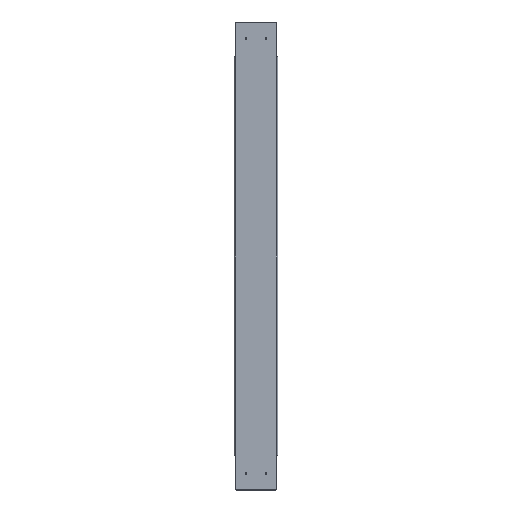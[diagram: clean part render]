
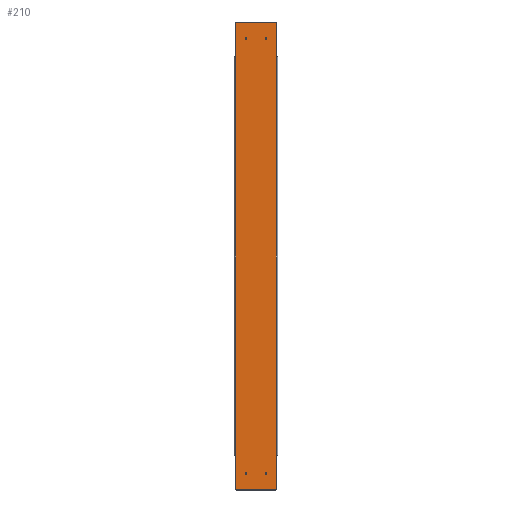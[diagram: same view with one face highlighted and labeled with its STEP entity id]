
A CAD part, top view. The second image highlights one B-rep face of the part: STEP entity #210.
In plain terms, the highlighted planar face has unit normal (0, 0, 1).
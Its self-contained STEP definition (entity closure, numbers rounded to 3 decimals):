
#59=CARTESIAN_POINT('',(1580.,2093.5,147.5));
#60=DIRECTION('',(-0.,-0.,1.));
#61=DIRECTION('',(0.,1.,0.));
#62=AXIS2_PLACEMENT_3D('',#59,#60,#61);
#63=PLANE('',#62);
#64=CARTESIAN_POINT('',(1590.,2130.9,147.5));
#65=VERTEX_POINT('',#64);
#66=CARTESIAN_POINT('',(1590.,2133.5,147.5));
#67=DIRECTION('',(-0.,-0.,1.));
#68=DIRECTION('',(0.,-1.,-0.));
#69=AXIS2_PLACEMENT_3D('',#66,#67,#68);
#70=CIRCLE('',#69,2.6);
#71=EDGE_CURVE('',#65,#65,#70,.T.);
#72=ORIENTED_EDGE('',*,*,#71,.F.);
#73=EDGE_LOOP('',(#72));
#74=FACE_BOUND('',#73,.T.);
#75=CARTESIAN_POINT('',(1530.,2130.9,147.5));
#76=VERTEX_POINT('',#75);
#77=CARTESIAN_POINT('',(1530.,2133.5,147.5));
#78=DIRECTION('',(-0.,-0.,1.));
#79=DIRECTION('',(0.,-1.,-0.));
#80=AXIS2_PLACEMENT_3D('',#77,#78,#79);
#81=CIRCLE('',#80,2.6);
#82=EDGE_CURVE('',#76,#76,#81,.T.);
#83=ORIENTED_EDGE('',*,*,#82,.F.);
#84=EDGE_LOOP('',(#83));
#85=FACE_BOUND('',#84,.T.);
#86=CARTESIAN_POINT('',(1530.,3430.9,147.5));
#87=VERTEX_POINT('',#86);
#88=CARTESIAN_POINT('',(1530.,3433.5,147.5));
#89=DIRECTION('',(-0.,-0.,1.));
#90=DIRECTION('',(0.,-1.,-0.));
#91=AXIS2_PLACEMENT_3D('',#88,#89,#90);
#92=CIRCLE('',#91,2.6);
#93=EDGE_CURVE('',#87,#87,#92,.T.);
#94=ORIENTED_EDGE('',*,*,#93,.F.);
#95=EDGE_LOOP('',(#94));
#96=FACE_BOUND('',#95,.T.);
#97=CARTESIAN_POINT('',(1590.,3430.9,147.5));
#98=VERTEX_POINT('',#97);
#99=CARTESIAN_POINT('',(1590.,3433.5,147.5));
#100=DIRECTION('',(-0.,-0.,1.));
#101=DIRECTION('',(0.,-1.,-0.));
#102=AXIS2_PLACEMENT_3D('',#99,#100,#101);
#103=CIRCLE('',#102,2.6);
#104=EDGE_CURVE('',#98,#98,#103,.T.);
#105=ORIENTED_EDGE('',*,*,#104,.F.);
#106=EDGE_LOOP('',(#105));
#107=FACE_BOUND('',#106,.T.);
#108=CARTESIAN_POINT('',(1620.,2187.5,147.5));
#109=VERTEX_POINT('',#108);
#110=CARTESIAN_POINT('',(1620.,2084.5,147.5));
#111=VERTEX_POINT('',#110);
#112=CARTESIAN_POINT('',(1620.,2187.5,147.5));
#113=DIRECTION('',(0.,-1.,-0.));
#114=VECTOR('',#113,103.);
#115=LINE('',#112,#114);
#116=EDGE_CURVE('',#109,#111,#115,.T.);
#117=ORIENTED_EDGE('',*,*,#116,.F.);
#118=CARTESIAN_POINT('',(1620.,3379.5,147.5));
#119=VERTEX_POINT('',#118);
#120=CARTESIAN_POINT('',(1620.,2187.5,147.5));
#121=DIRECTION('',(0.,1.,0.));
#122=VECTOR('',#121,1192.);
#123=LINE('',#120,#122);
#124=EDGE_CURVE('',#109,#119,#123,.T.);
#125=ORIENTED_EDGE('',*,*,#124,.T.);
#126=CARTESIAN_POINT('',(1620.,3482.5,147.5));
#127=VERTEX_POINT('',#126);
#128=CARTESIAN_POINT('',(1620.,3379.5,147.5));
#129=DIRECTION('',(0.,1.,0.));
#130=VECTOR('',#129,103.);
#131=LINE('',#128,#130);
#132=EDGE_CURVE('',#119,#127,#131,.T.);
#133=ORIENTED_EDGE('',*,*,#132,.T.);
#134=CARTESIAN_POINT('',(1619.,3483.5,147.5));
#135=VERTEX_POINT('',#134);
#136=CARTESIAN_POINT('',(1619.,3482.5,147.5));
#137=DIRECTION('',(-0.,-0.,1.));
#138=DIRECTION('',(0.,-1.,-0.));
#139=AXIS2_PLACEMENT_3D('',#136,#137,#138);
#140=CIRCLE('',#139,1.);
#141=EDGE_CURVE('',#127,#135,#140,.T.);
#142=ORIENTED_EDGE('',*,*,#141,.T.);
#143=CARTESIAN_POINT('',(1501.,3483.5,147.5));
#144=VERTEX_POINT('',#143);
#145=CARTESIAN_POINT('',(1619.,3483.5,147.5));
#146=DIRECTION('',(-1.,0.,0.));
#147=VECTOR('',#146,118.);
#148=LINE('',#145,#147);
#149=EDGE_CURVE('',#135,#144,#148,.T.);
#150=ORIENTED_EDGE('',*,*,#149,.T.);
#151=CARTESIAN_POINT('',(1500.,3482.5,147.5));
#152=VERTEX_POINT('',#151);
#153=CARTESIAN_POINT('',(1501.,3482.5,147.5));
#154=DIRECTION('',(-0.,-0.,1.));
#155=DIRECTION('',(0.,-1.,-0.));
#156=AXIS2_PLACEMENT_3D('',#153,#154,#155);
#157=CIRCLE('',#156,1.);
#158=EDGE_CURVE('',#144,#152,#157,.T.);
#159=ORIENTED_EDGE('',*,*,#158,.T.);
#160=CARTESIAN_POINT('',(1500.,3379.5,147.5));
#161=VERTEX_POINT('',#160);
#162=CARTESIAN_POINT('',(1500.,3379.5,147.5));
#163=DIRECTION('',(0.,1.,0.));
#164=VECTOR('',#163,103.);
#165=LINE('',#162,#164);
#166=EDGE_CURVE('',#161,#152,#165,.T.);
#167=ORIENTED_EDGE('',*,*,#166,.F.);
#168=CARTESIAN_POINT('',(1500.,2187.5,147.5));
#169=VERTEX_POINT('',#168);
#170=CARTESIAN_POINT('',(1500.,3379.5,147.5));
#171=DIRECTION('',(-0.,-1.,-0.));
#172=VECTOR('',#171,1192.);
#173=LINE('',#170,#172);
#174=EDGE_CURVE('',#161,#169,#173,.T.);
#175=ORIENTED_EDGE('',*,*,#174,.T.);
#176=CARTESIAN_POINT('',(1500.,2084.5,147.5));
#177=VERTEX_POINT('',#176);
#178=CARTESIAN_POINT('',(1500.,2187.5,147.5));
#179=DIRECTION('',(0.,-1.,-0.));
#180=VECTOR('',#179,103.);
#181=LINE('',#178,#180);
#182=EDGE_CURVE('',#169,#177,#181,.T.);
#183=ORIENTED_EDGE('',*,*,#182,.T.);
#184=CARTESIAN_POINT('',(1501.,2083.5,147.5));
#185=VERTEX_POINT('',#184);
#186=CARTESIAN_POINT('',(1501.,2084.5,147.5));
#187=DIRECTION('',(-0.,-0.,1.));
#188=DIRECTION('',(0.,-1.,-0.));
#189=AXIS2_PLACEMENT_3D('',#186,#187,#188);
#190=CIRCLE('',#189,1.);
#191=EDGE_CURVE('',#177,#185,#190,.T.);
#192=ORIENTED_EDGE('',*,*,#191,.T.);
#193=CARTESIAN_POINT('',(1619.,2083.5,147.5));
#194=VERTEX_POINT('',#193);
#195=CARTESIAN_POINT('',(1619.,2083.5,147.5));
#196=DIRECTION('',(-1.,0.,0.));
#197=VECTOR('',#196,118.);
#198=LINE('',#195,#197);
#199=EDGE_CURVE('',#194,#185,#198,.T.);
#200=ORIENTED_EDGE('',*,*,#199,.F.);
#201=CARTESIAN_POINT('',(1619.,2084.5,147.5));
#202=DIRECTION('',(-0.,-0.,1.));
#203=DIRECTION('',(0.,-1.,-0.));
#204=AXIS2_PLACEMENT_3D('',#201,#202,#203);
#205=CIRCLE('',#204,1.);
#206=EDGE_CURVE('',#194,#111,#205,.T.);
#207=ORIENTED_EDGE('',*,*,#206,.T.);
#208=EDGE_LOOP('',(#117,#125,#133,#142,#150,#159,#167,#175,#183,#192,#200,#207));
#209=FACE_BOUND('',#208,.T.);
#210=ADVANCED_FACE('',(#74,#85,#96,#107,#209),#63,.T.);
